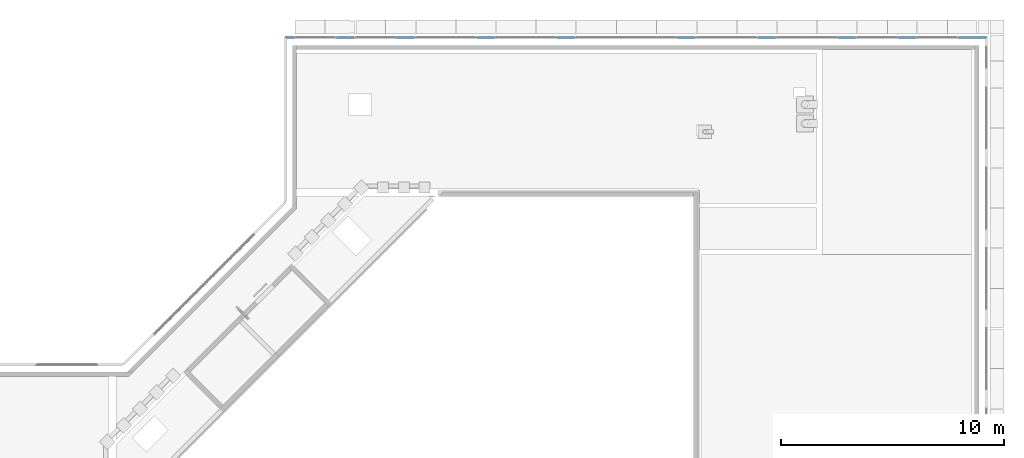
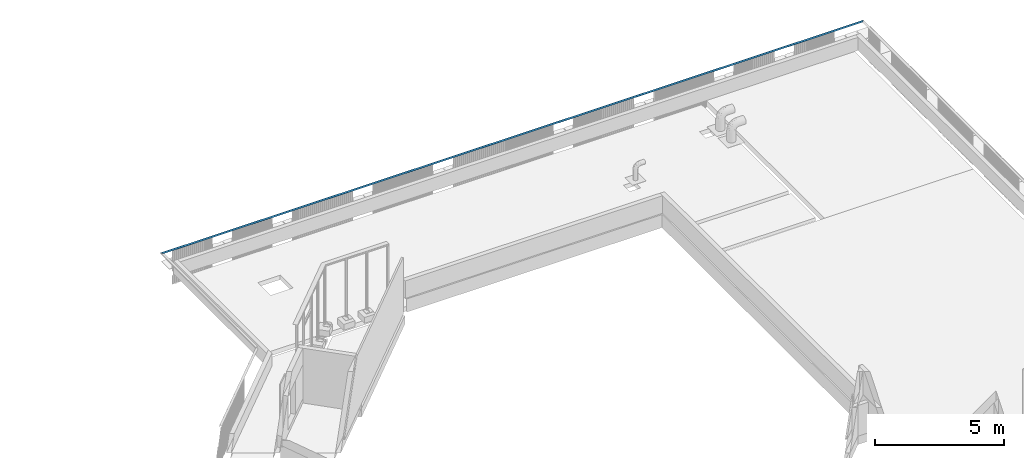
# One storey, part 35 of 37: 1 discrete accessory.
"""IFC4X3_ADD2 building model written with IfcOpenShell, lengths in millimetres."""

from ifc_helpers import new_model, si_unit, direction, frame, origin_with_axes, place, context, subcontext, project, spatial, polygons, source, transform, mapped, material, element, save


model = new_model("IFC4X3_ADD2")

# Units and contexts
model_context = context("Model", 3, precision=1e-05, world=origin_with_axes(), true_north=direction((0.0, 1.0)))
body_context = subcontext(model_context, "Body", "Model", "MODEL_VIEW")
ifc_project = project(units=[si_unit("LENGTHUNIT", "METRE", prefix="MILLI"), si_unit("AREAUNIT", "SQUARE_METRE"), si_unit("VOLUMEUNIT", "CUBIC_METRE"), si_unit("PLANEANGLEUNIT", "RADIAN"), si_unit("TIMEUNIT", "SECOND"), si_unit("MASSUNIT", "GRAM")], contexts=[model_context])

# Site, building, storey
site_placement = place(None, origin_with_axes())
site = spatial("IfcSite", under=ifc_project, at=site_placement, Name="Site", CompositionType="ELEMENT")
building_placement = place(site_placement, origin_with_axes())
building = spatial("IfcBuilding", under=site, at=building_placement, Name="IFC Building Story")
storey_placement = place(building_placement, frame((0.0, 0.0, 14400.0), z_axis=(0.0, 0.0, 1.0), x_axis=(1.0, 0.0, 0.0)))
storey = spatial("IfcBuildingStorey", under=building, at=storey_placement, Name="040", Elevation=14400.0)

# Discrete accessory
ifc_material = material(Name="BB_Metaal_Aluminium_Buitenschrijnwerk")
shared_shape = source(origin_with_axes(), body_context, "Body", "Tessellation", [
    polygons([(1.99999999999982, 2.00000000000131, 44.988826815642), (2.0, 2.00000000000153, 5.00291224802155), (8.1015078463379, 8.10150784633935, 11.4146481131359), (9.51615595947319, 9.51615595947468, 10.0), (0.0, 1.6073808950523e-12, 0.0), (1.08286712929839e-12, 1.74696923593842e-12, 59.9888268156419), (9.99999999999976, 10.0000000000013, 59.9888268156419), (9.99999999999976, 10.0000000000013, 57.9888268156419), (2.0, 2.00000000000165, 57.9888268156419), (2.0, 2.00000000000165, 46.9888268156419), (99.9999999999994, 100.0, 46.9888268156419), (99.9999999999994, 100.0, 44.988826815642), (31521.5857864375, 2.0, 5.00291224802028), (31521.5857864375, 2.0, 44.988826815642), (31423.5857864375, 100.0, 44.988826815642), (31423.5857864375, 100.0, 46.9888268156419), (31521.5857864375, 2.0, 46.9888268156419), (31521.5857864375, 2.0, 57.9888268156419), (31513.5857864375, 10.0, 57.9888268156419), (31513.5857864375, 10.0, 59.9888268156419), (31523.5857864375, 0.0, 59.9888268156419), (31523.5857864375, 1.16323617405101e-12, 0.0), (31514.069630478, 9.51615595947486, 10.0), (31515.4842785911, 8.10150784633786, 11.4146481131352)], [[[2, 3, 4]], [[2, 4, 5]], [[5, 6, 1]], [[5, 1, 2]], [[10, 11, 12]], [[10, 12, 1]], [[10, 1, 6]], [[6, 9, 10]], [[6, 7, 8]], [[6, 8, 9]], [[18, 19, 20]], [[18, 20, 21]], [[21, 17, 18]], [[21, 14, 17]], [[14, 15, 16]], [[14, 16, 17]], [[21, 22, 13]], [[21, 13, 14]], [[22, 23, 24]], [[22, 24, 13]], [[2, 1, 14, 13]], [[5, 4, 23, 22]], [[3, 2, 13, 24]], [[6, 5, 22, 21]], [[4, 3, 24, 23]], [[7, 6, 21, 20]], [[8, 7, 20, 19]], [[9, 8, 19, 18]], [[10, 9, 18, 17]], [[11, 10, 17, 16]], [[12, 11, 16, 15]], [[1, 12, 15, 14]]]),
])
discrete_accessory_placement = place(storey_placement, frame((480.0, 45780.0, 620.0055865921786), z_axis=(0.0, 0.0, 1.0), x_axis=(-1.0, 0.0, 0.0)))
element("IfcDiscreteAccessory", 1, at=discrete_accessory_placement, inside=storey, material=ifc_material, Name="BB_05.10_Dakrandprofiel, 60 mm_GLI:XX_Geen", ObjectType="BB_05.10_Dakrandprofiel, 60 mm_GLI:XX_Geen", PredefinedType="USERDEFINED", context=body_context, shape_type="MappedRepresentation", body=[
    mapped(shared_shape, transform((0.0, 0.0, 0.0))),
])

save(model, "model.ifc")
